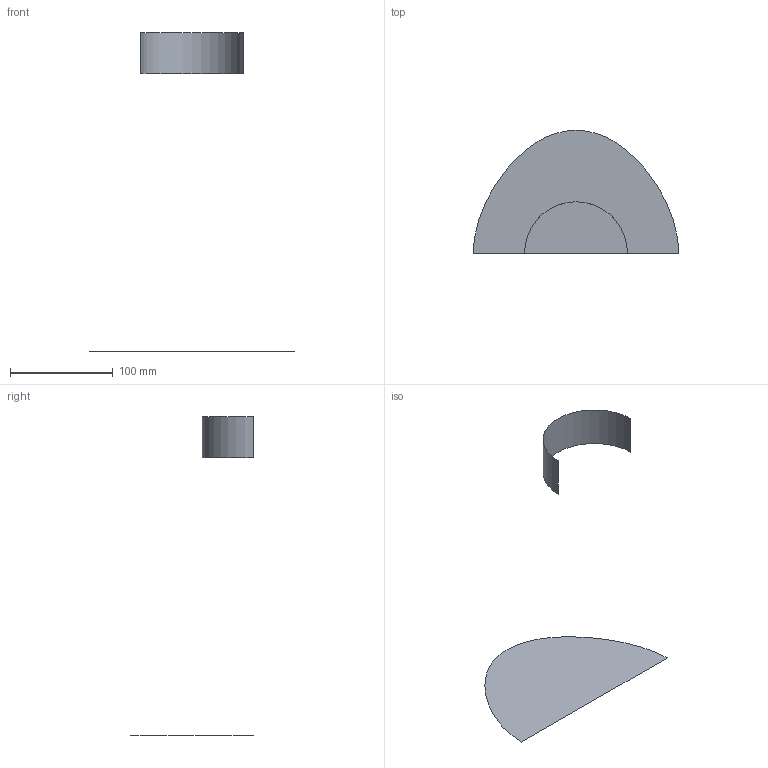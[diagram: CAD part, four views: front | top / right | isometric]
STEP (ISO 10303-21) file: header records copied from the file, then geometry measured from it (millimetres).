
FILE_DESCRIPTION(('CATIA V5 STEP Exchange'),'2;1');
FILE_NAME('C:\_Andres\UNIVERSIDAD\IQS\ASIGNATURAS\DAO\Controles\1617\c1\1original\Duch_Leira_Ej00-base_v10.stp','2017-02-06T16:27:37+00:00',('none'),('none'),'CATIA Version 5-6 Release 2014 SP1 HF18','CATIA V5 STEP AP203','none');
FILE_SCHEMA(('CONFIG_CONTROL_DESIGN'));
Length unit declared in the file: millimetre
Products named in the file (1): Duch_Leira_Ej00-base_v10
Bounding box: 200 x 120 x 310 mm (x, y, z)
Surface area: 24366.6 mm2 (no closed solid volume)
Topology: 0 solids, 2 shells, 2 faces, 16 edges, 26 vertices
Faces by surface type: cylinder 1, plane 1
Entity records: 230 total; most frequent: CARTESIAN_POINT 78, DIRECTION 16, COMPOSITE_CURVE_SEGMENT 9, TRIMMED_CURVE 9, AXIS2_PLACEMENT_3D 8, COMPOSITE_CURVE 7, ORIENTED_EDGE 7, EDGE_CURVE 7
